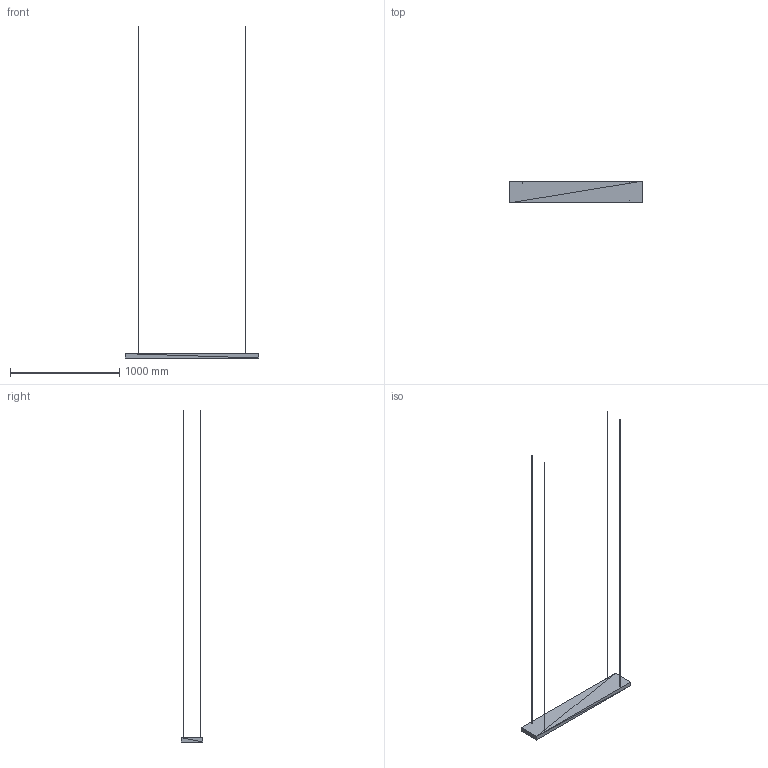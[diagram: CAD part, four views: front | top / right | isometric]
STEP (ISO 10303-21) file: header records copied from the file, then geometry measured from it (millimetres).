
FILE_DESCRIPTION(('ISINAC STEP AP214'),'2;1');
FILE_NAME('ISINAC_R.1220.200_40mm_COLGADO','2026-05-03T10:49:19',('ISINAC'),('www.isinac.com'),'ISINAC BIM Generator 1.0','','');
FILE_SCHEMA(('AUTOMOTIVE_DESIGN'));
Length unit declared in the file: millimetre
Products named in the file (1): ISINAC_R.1220.200_40mm_COLGADO
Bounding box: 1220 x 200 x 3040 mm (x, y, z)
Surface area: 709646 mm2 (no closed solid volume)
Topology: 0 solids, 92 shells, 92 faces, 276 edges, 276 vertices
Faces by surface type: plane 92
Entity records: 1025 total; most frequent: CARTESIAN_POINT 368, DIRECTION 184, POLY_LOOP 92, FACE_OUTER_BOUND 92, AXIS2_PLACEMENT_3D 92, PLANE 92, FACE_SURFACE 92, CLOSED_SHELL 1
